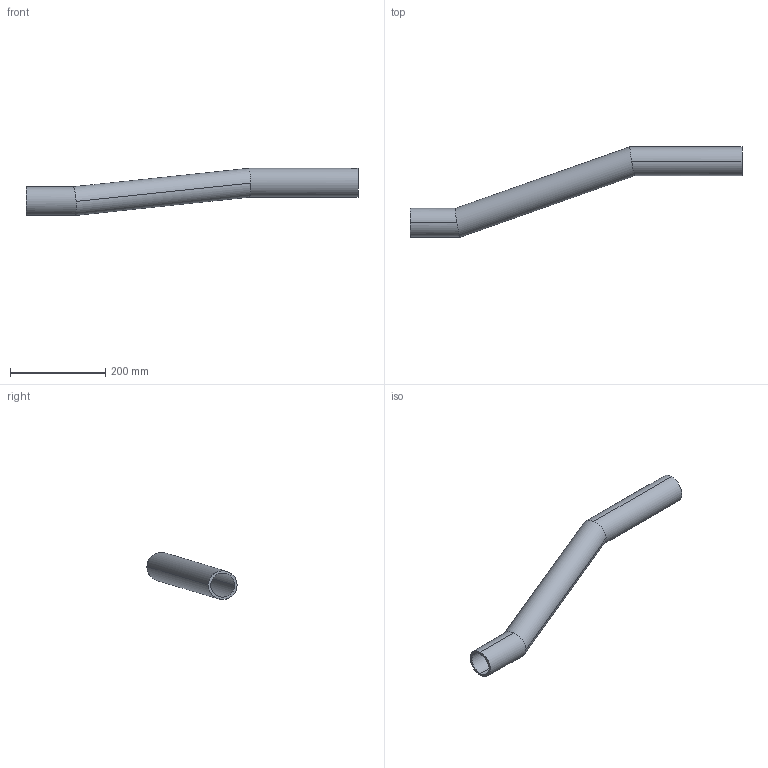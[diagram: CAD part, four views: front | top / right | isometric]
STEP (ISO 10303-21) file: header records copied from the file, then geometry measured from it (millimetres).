
FILE_DESCRIPTION (( 'STEP AP214' ), '1' );
FILE_NAME ('Rohr.STEP', '2010-12-21T09:50:14', ( 'Sven' ), ( '' ), 'SwSTEP 2.0', 'SolidWorks 2010', '' );
FILE_SCHEMA (( 'AUTOMOTIVE_DESIGN' ));
Length unit declared in the file: millimetre
Products named in the file (1): Rohr
Bounding box: 697 x 189.3 x 98.8 mm (x, y, z)
Volume: 626220.5 mm3; surface area: 252225.5 mm2
Topology: 1 solids, 1 shells, 14 faces, 36 edges, 24 vertices
Faces by surface type: cylinder 12, plane 2
Entity records: 466 total; most frequent: CARTESIAN_POINT 123, ORIENTED_EDGE 72, DIRECTION 58, EDGE_CURVE 36, VERTEX_POINT 24, AXIS2_PLACEMENT_3D 23, EDGE_LOOP 16, FACE_OUTER_BOUND 14
